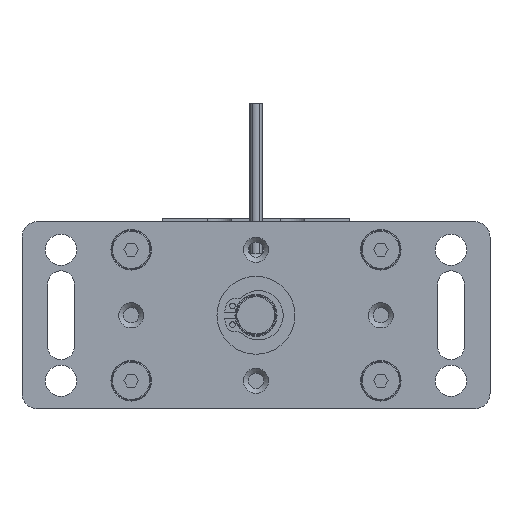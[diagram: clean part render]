
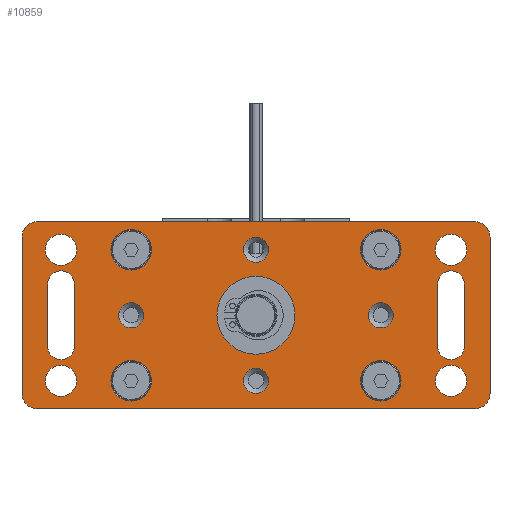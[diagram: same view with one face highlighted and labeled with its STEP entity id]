
A CAD part, front view. The second image highlights one B-rep face of the part: STEP entity #10859.
In plain terms, the highlighted planar face has unit normal (0, -1, 0).
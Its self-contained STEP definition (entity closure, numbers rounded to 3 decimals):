
#378=LINE('',#18406,#1045);
#379=LINE('',#18410,#1046);
#380=LINE('',#18417,#1047);
#381=LINE('',#18422,#1048);
#382=LINE('',#18426,#1049);
#383=LINE('',#18430,#1050);
#384=LINE('',#18453,#1051);
#385=LINE('',#18458,#1052);
#1045=VECTOR('',#15012,1000.);
#1046=VECTOR('',#15015,1000.);
#1047=VECTOR('',#15022,1000.);
#1048=VECTOR('',#15025,1000.);
#1049=VECTOR('',#15028,1000.);
#1050=VECTOR('',#15031,1000.);
#1051=VECTOR('',#15054,1000.);
#1052=VECTOR('',#15057,1000.);
#2659=ORIENTED_EDGE('',*,*,#5657,.F.);
#2660=ORIENTED_EDGE('',*,*,#5658,.F.);
#2661=ORIENTED_EDGE('',*,*,#5659,.F.);
#2662=ORIENTED_EDGE('',*,*,#5660,.F.);
#2663=ORIENTED_EDGE('',*,*,#5661,.F.);
#2664=ORIENTED_EDGE('',*,*,#5662,.T.);
#2665=ORIENTED_EDGE('',*,*,#5663,.F.);
#2666=ORIENTED_EDGE('',*,*,#5664,.T.);
#2667=ORIENTED_EDGE('',*,*,#5665,.T.);
#2668=ORIENTED_EDGE('',*,*,#5666,.T.);
#2669=ORIENTED_EDGE('',*,*,#5667,.T.);
#2670=ORIENTED_EDGE('',*,*,#5668,.T.);
#2671=ORIENTED_EDGE('',*,*,#5669,.T.);
#2672=ORIENTED_EDGE('',*,*,#5670,.T.);
#2673=ORIENTED_EDGE('',*,*,#5671,.T.);
#2674=ORIENTED_EDGE('',*,*,#5672,.F.);
#2675=ORIENTED_EDGE('',*,*,#5673,.T.);
#2676=ORIENTED_EDGE('',*,*,#5674,.F.);
#2677=ORIENTED_EDGE('',*,*,#5675,.F.);
#2678=ORIENTED_EDGE('',*,*,#5676,.F.);
#2679=ORIENTED_EDGE('',*,*,#5677,.F.);
#2680=ORIENTED_EDGE('',*,*,#5678,.T.);
#2681=ORIENTED_EDGE('',*,*,#5679,.T.);
#2682=ORIENTED_EDGE('',*,*,#5680,.T.);
#2683=ORIENTED_EDGE('',*,*,#5681,.T.);
#2684=ORIENTED_EDGE('',*,*,#5682,.T.);
#2685=ORIENTED_EDGE('',*,*,#5683,.T.);
#2686=ORIENTED_EDGE('',*,*,#5684,.T.);
#2687=ORIENTED_EDGE('',*,*,#5685,.T.);
#5657=EDGE_CURVE('',#7193,#7194,#8159,.T.);
#5658=EDGE_CURVE('',#7195,#7193,#378,.T.);
#5659=EDGE_CURVE('',#7196,#7195,#8160,.T.);
#5660=EDGE_CURVE('',#7194,#7196,#379,.T.);
#5661=EDGE_CURVE('',#7197,#7197,#8161,.T.);
#5662=EDGE_CURVE('',#7198,#7198,#8162,.T.);
#5663=EDGE_CURVE('',#7199,#7199,#8163,.T.);
#5664=EDGE_CURVE('',#7200,#7201,#380,.T.);
#5665=EDGE_CURVE('',#7201,#7202,#8164,.T.);
#5666=EDGE_CURVE('',#7202,#7203,#381,.T.);
#5667=EDGE_CURVE('',#7203,#7204,#8165,.T.);
#5668=EDGE_CURVE('',#7204,#7205,#382,.T.);
#5669=EDGE_CURVE('',#7205,#7206,#8166,.T.);
#5670=EDGE_CURVE('',#7206,#7207,#383,.T.);
#5671=EDGE_CURVE('',#7207,#7200,#8167,.T.);
#5672=EDGE_CURVE('',#7208,#7208,#8168,.T.);
#5673=EDGE_CURVE('',#7209,#7209,#8169,.T.);
#5674=EDGE_CURVE('',#7210,#7210,#8170,.T.);
#5675=EDGE_CURVE('',#7211,#7211,#8171,.T.);
#5676=EDGE_CURVE('',#7212,#7212,#8172,.T.);
#5677=EDGE_CURVE('',#7213,#7213,#8173,.T.);
#5678=EDGE_CURVE('',#7214,#7214,#8174,.F.);
#5679=EDGE_CURVE('',#7215,#7215,#8175,.F.);
#5680=EDGE_CURVE('',#7216,#7216,#8176,.F.);
#5681=EDGE_CURVE('',#7217,#7217,#8177,.F.);
#5682=EDGE_CURVE('',#7218,#7219,#384,.T.);
#5683=EDGE_CURVE('',#7219,#7220,#8178,.T.);
#5684=EDGE_CURVE('',#7220,#7221,#385,.T.);
#5685=EDGE_CURVE('',#7221,#7218,#8179,.T.);
#7193=VERTEX_POINT('',#18404);
#7194=VERTEX_POINT('',#18405);
#7195=VERTEX_POINT('',#18407);
#7196=VERTEX_POINT('',#18409);
#7197=VERTEX_POINT('',#18412);
#7198=VERTEX_POINT('',#18414);
#7199=VERTEX_POINT('',#18416);
#7200=VERTEX_POINT('',#18418);
#7201=VERTEX_POINT('',#18419);
#7202=VERTEX_POINT('',#18421);
#7203=VERTEX_POINT('',#18423);
#7204=VERTEX_POINT('',#18425);
#7205=VERTEX_POINT('',#18427);
#7206=VERTEX_POINT('',#18429);
#7207=VERTEX_POINT('',#18431);
#7208=VERTEX_POINT('',#18434);
#7209=VERTEX_POINT('',#18436);
#7210=VERTEX_POINT('',#18438);
#7211=VERTEX_POINT('',#18440);
#7212=VERTEX_POINT('',#18442);
#7213=VERTEX_POINT('',#18444);
#7214=VERTEX_POINT('',#18446);
#7215=VERTEX_POINT('',#18448);
#7216=VERTEX_POINT('',#18450);
#7217=VERTEX_POINT('',#18452);
#7218=VERTEX_POINT('',#18454);
#7219=VERTEX_POINT('',#18455);
#7220=VERTEX_POINT('',#18457);
#7221=VERTEX_POINT('',#18459);
#8159=CIRCLE('',#13485,4.25);
#8160=CIRCLE('',#13486,4.25);
#8161=CIRCLE('',#13487,12.5);
#8162=CIRCLE('',#13488,5.);
#8163=CIRCLE('',#13489,5.);
#8164=CIRCLE('',#13490,5.);
#8165=CIRCLE('',#13491,5.);
#8166=CIRCLE('',#13492,5.);
#8167=CIRCLE('',#13493,5.);
#8168=CIRCLE('',#13494,5.);
#8169=CIRCLE('',#13495,5.);
#8170=CIRCLE('',#13496,6.5);
#8171=CIRCLE('',#13497,6.5);
#8172=CIRCLE('',#13498,6.5);
#8173=CIRCLE('',#13499,6.5);
#8174=CIRCLE('',#13500,3.999);
#8175=CIRCLE('',#13501,3.999);
#8176=CIRCLE('',#13502,3.999);
#8177=CIRCLE('',#13503,3.999);
#8178=CIRCLE('',#13504,4.25);
#8179=CIRCLE('',#13505,4.25);
#8768=EDGE_LOOP('',(#2659,#2660,#2661,#2662));
#8769=EDGE_LOOP('',(#2663));
#8770=EDGE_LOOP('',(#2664));
#8771=EDGE_LOOP('',(#2665));
#8772=EDGE_LOOP('',(#2666,#2667,#2668,#2669,#2670,#2671,#2672,#2673));
#8773=EDGE_LOOP('',(#2674));
#8774=EDGE_LOOP('',(#2675));
#8775=EDGE_LOOP('',(#2676));
#8776=EDGE_LOOP('',(#2677));
#8777=EDGE_LOOP('',(#2678));
#8778=EDGE_LOOP('',(#2679));
#8779=EDGE_LOOP('',(#2680));
#8780=EDGE_LOOP('',(#2681));
#8781=EDGE_LOOP('',(#2682));
#8782=EDGE_LOOP('',(#2683));
#8783=EDGE_LOOP('',(#2684,#2685,#2686,#2687));
#9730=FACE_BOUND('',#8768,.T.);
#9731=FACE_BOUND('',#8769,.T.);
#9732=FACE_BOUND('',#8770,.T.);
#9733=FACE_BOUND('',#8771,.T.);
#9734=FACE_BOUND('',#8772,.T.);
#9735=FACE_BOUND('',#8773,.T.);
#9736=FACE_BOUND('',#8774,.T.);
#9737=FACE_BOUND('',#8775,.T.);
#9738=FACE_BOUND('',#8776,.T.);
#9739=FACE_BOUND('',#8777,.T.);
#9740=FACE_BOUND('',#8778,.T.);
#9741=FACE_BOUND('',#8779,.T.);
#9742=FACE_BOUND('',#8780,.T.);
#9743=FACE_BOUND('',#8781,.T.);
#9744=FACE_BOUND('',#8782,.T.);
#9745=FACE_BOUND('',#8783,.T.);
#10577=PLANE('',#13484);
#10859=ADVANCED_FACE('',(#9730,#9731,#9732,#9733,#9734,#9735,#9736,#9737,
#9738,#9739,#9740,#9741,#9742,#9743,#9744,#9745),#10577,.T.);
#13484=AXIS2_PLACEMENT_3D('',#18402,#15008,#15009);
#13485=AXIS2_PLACEMENT_3D('',#18403,#15010,#15011);
#13486=AXIS2_PLACEMENT_3D('',#18408,#15013,#15014);
#13487=AXIS2_PLACEMENT_3D('',#18411,#15016,#15017);
#13488=AXIS2_PLACEMENT_3D('',#18413,#15018,#15019);
#13489=AXIS2_PLACEMENT_3D('',#18415,#15020,#15021);
#13490=AXIS2_PLACEMENT_3D('',#18420,#15023,#15024);
#13491=AXIS2_PLACEMENT_3D('',#18424,#15026,#15027);
#13492=AXIS2_PLACEMENT_3D('',#18428,#15029,#15030);
#13493=AXIS2_PLACEMENT_3D('',#18432,#15032,#15033);
#13494=AXIS2_PLACEMENT_3D('',#18433,#15034,#15035);
#13495=AXIS2_PLACEMENT_3D('',#18435,#15036,#15037);
#13496=AXIS2_PLACEMENT_3D('',#18437,#15038,#15039);
#13497=AXIS2_PLACEMENT_3D('',#18439,#15040,#15041);
#13498=AXIS2_PLACEMENT_3D('',#18441,#15042,#15043);
#13499=AXIS2_PLACEMENT_3D('',#18443,#15044,#15045);
#13500=AXIS2_PLACEMENT_3D('',#18445,#15046,#15047);
#13501=AXIS2_PLACEMENT_3D('',#18447,#15048,#15049);
#13502=AXIS2_PLACEMENT_3D('',#18449,#15050,#15051);
#13503=AXIS2_PLACEMENT_3D('',#18451,#15052,#15053);
#13504=AXIS2_PLACEMENT_3D('',#18456,#15055,#15056);
#13505=AXIS2_PLACEMENT_3D('',#18460,#15058,#15059);
#15008=DIRECTION('',(0.,-1.,0.));
#15009=DIRECTION('',(0.,0.,-1.));
#15010=DIRECTION('',(0.,-1.,0.));
#15011=DIRECTION('',(1.,0.,0.));
#15012=DIRECTION('',(0.,0.,1.));
#15013=DIRECTION('',(0.,-1.,0.));
#15014=DIRECTION('',(-1.,0.,0.));
#15015=DIRECTION('',(0.,0.,-1.));
#15016=DIRECTION('',(0.,-1.,0.));
#15017=DIRECTION('',(0.,0.,-1.));
#15018=DIRECTION('',(0.,1.,0.));
#15019=DIRECTION('',(1.,0.,0.));
#15020=DIRECTION('',(0.,-1.,0.));
#15021=DIRECTION('',(1.,0.,0.));
#15022=DIRECTION('',(0.,0.,1.));
#15023=DIRECTION('',(0.,-1.,0.));
#15024=DIRECTION('',(0.,0.,-1.));
#15025=DIRECTION('',(-1.,0.,0.));
#15026=DIRECTION('',(0.,-1.,0.));
#15027=DIRECTION('',(0.,0.,-1.));
#15028=DIRECTION('',(0.,0.,-1.));
#15029=DIRECTION('',(0.,-1.,0.));
#15030=DIRECTION('',(0.,0.,-1.));
#15031=DIRECTION('',(1.,0.,0.));
#15032=DIRECTION('',(0.,-1.,0.));
#15033=DIRECTION('',(0.,0.,-1.));
#15034=DIRECTION('',(0.,-1.,0.));
#15035=DIRECTION('',(1.,0.,0.));
#15036=DIRECTION('',(0.,1.,0.));
#15037=DIRECTION('',(1.,0.,0.));
#15038=DIRECTION('',(0.,-1.,0.));
#15039=DIRECTION('',(1.,0.,0.));
#15040=DIRECTION('',(0.,-1.,0.));
#15041=DIRECTION('',(0.,0.,-1.));
#15042=DIRECTION('',(0.,-1.,0.));
#15043=DIRECTION('',(0.,0.,-1.));
#15044=DIRECTION('',(0.,-1.,0.));
#15045=DIRECTION('',(0.,0.,-1.));
#15046=DIRECTION('',(0.,-1.,0.));
#15047=DIRECTION('',(0.,0.,-1.));
#15048=DIRECTION('',(0.,-1.,0.));
#15049=DIRECTION('',(0.,0.,-1.));
#15050=DIRECTION('',(0.,-1.,0.));
#15051=DIRECTION('',(0.,0.,-1.));
#15052=DIRECTION('',(0.,-1.,0.));
#15053=DIRECTION('',(0.,0.,-1.));
#15054=DIRECTION('',(0.,0.,1.));
#15055=DIRECTION('',(0.,1.,0.));
#15056=DIRECTION('',(-1.,0.,0.));
#15057=DIRECTION('',(0.,0.,-1.));
#15058=DIRECTION('',(0.,1.,0.));
#15059=DIRECTION('',(1.,0.,0.));
#18402=CARTESIAN_POINT('',(-75.,0.,-30.));
#18403=CARTESIAN_POINT('',(-62.5,0.,10.));
#18404=CARTESIAN_POINT('',(-58.25,0.,10.));
#18405=CARTESIAN_POINT('',(-66.75,0.,10.));
#18406=CARTESIAN_POINT('',(-58.25,0.,10.));
#18407=CARTESIAN_POINT('',(-58.25,0.,-10.));
#18408=CARTESIAN_POINT('',(-62.5,0.,-10.));
#18409=CARTESIAN_POINT('',(-66.75,0.,-10.));
#18410=CARTESIAN_POINT('',(-66.75,0.,10.));
#18411=CARTESIAN_POINT('',(0.,0.,0.));
#18412=CARTESIAN_POINT('',(0.,0.,-12.5));
#18413=CARTESIAN_POINT('',(62.5,0.,-21.));
#18414=CARTESIAN_POINT('',(67.5,0.,-21.));
#18415=CARTESIAN_POINT('',(62.5,0.,21.));
#18416=CARTESIAN_POINT('',(67.5,0.,21.));
#18417=CARTESIAN_POINT('',(75.,0.,-30.));
#18418=CARTESIAN_POINT('',(75.,0.,-25.));
#18419=CARTESIAN_POINT('',(75.,0.,25.));
#18420=CARTESIAN_POINT('',(70.,0.,25.));
#18421=CARTESIAN_POINT('',(70.,0.,30.));
#18422=CARTESIAN_POINT('',(75.,0.,30.));
#18423=CARTESIAN_POINT('',(-70.,0.,30.));
#18424=CARTESIAN_POINT('',(-70.,0.,25.));
#18425=CARTESIAN_POINT('',(-75.,0.,25.));
#18426=CARTESIAN_POINT('',(-75.,0.,30.));
#18427=CARTESIAN_POINT('',(-75.,0.,-25.));
#18428=CARTESIAN_POINT('',(-70.,0.,-25.));
#18429=CARTESIAN_POINT('',(-70.,0.,-30.));
#18430=CARTESIAN_POINT('',(-75.,0.,-30.));
#18431=CARTESIAN_POINT('',(70.,0.,-30.));
#18432=CARTESIAN_POINT('',(70.,0.,-25.));
#18433=CARTESIAN_POINT('',(-62.5,0.,-21.));
#18434=CARTESIAN_POINT('',(-57.5,0.,-21.));
#18435=CARTESIAN_POINT('',(-62.5,0.,21.));
#18436=CARTESIAN_POINT('',(-57.5,0.,21.));
#18437=CARTESIAN_POINT('',(40.,0.,21.));
#18438=CARTESIAN_POINT('',(46.5,0.,21.));
#18439=CARTESIAN_POINT('',(40.,0.,-21.));
#18440=CARTESIAN_POINT('',(40.,0.,-27.5));
#18441=CARTESIAN_POINT('',(-40.,0.,21.));
#18442=CARTESIAN_POINT('',(-40.,0.,14.5));
#18443=CARTESIAN_POINT('',(-40.,0.,-21.));
#18444=CARTESIAN_POINT('',(-40.,0.,-27.5));
#18445=CARTESIAN_POINT('',(40.,0.,0.));
#18446=CARTESIAN_POINT('',(40.,0.,-3.999));
#18447=CARTESIAN_POINT('',(0.,0.,21.));
#18448=CARTESIAN_POINT('',(0.,0.,17.002));
#18449=CARTESIAN_POINT('',(-40.,0.,0.));
#18450=CARTESIAN_POINT('',(-40.,0.,-3.999));
#18451=CARTESIAN_POINT('',(0.,0.,-21.));
#18452=CARTESIAN_POINT('',(0.,0.,-24.999));
#18453=CARTESIAN_POINT('',(58.25,0.,10.));
#18454=CARTESIAN_POINT('',(58.25,0.,-10.));
#18455=CARTESIAN_POINT('',(58.25,0.,10.));
#18456=CARTESIAN_POINT('',(62.5,0.,10.));
#18457=CARTESIAN_POINT('',(66.75,0.,10.));
#18458=CARTESIAN_POINT('',(66.75,0.,10.));
#18459=CARTESIAN_POINT('',(66.75,0.,-10.));
#18460=CARTESIAN_POINT('',(62.5,0.,-10.));
